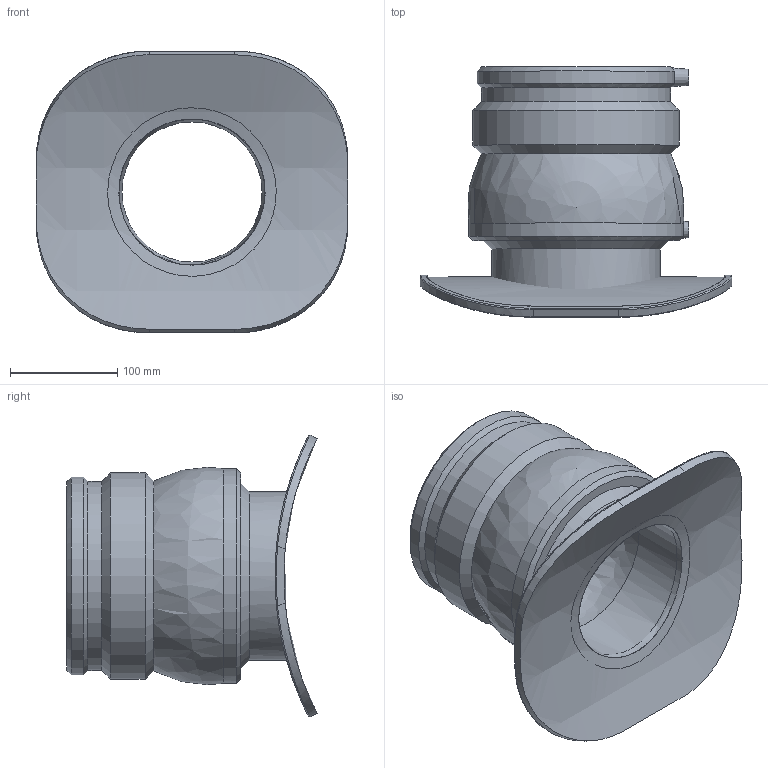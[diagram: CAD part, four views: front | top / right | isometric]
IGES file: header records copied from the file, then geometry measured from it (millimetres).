
Global section: file name: 475804560160.ipt; native system: Autodesk Inventor 2015; preprocessor: unknown; author: Кирилл,,11,0; organization: 20170830.161326; date: 20171106.093459; units: millimetre
Bounding box: 290 x 232.8 x 262.27 mm (x, y, z)
Volume: 2451266.3 mm3; surface area: 363590.8 mm2
Topology: 2 solids, 2 shells, 69 faces, 162 edges, 104 vertices
Faces by surface type: plane 17, cylinder 17, revolution 17, bspline 9, cone 8, sphere 1
Full cylindrical faces by diameter (mm): 4 x2, 156.8 x1, 176 x1, 192 x1
